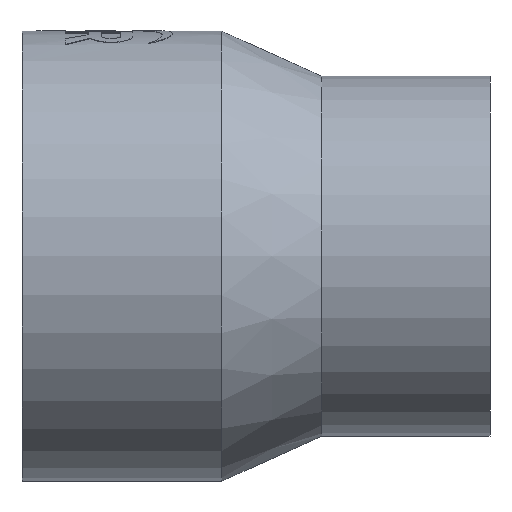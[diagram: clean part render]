
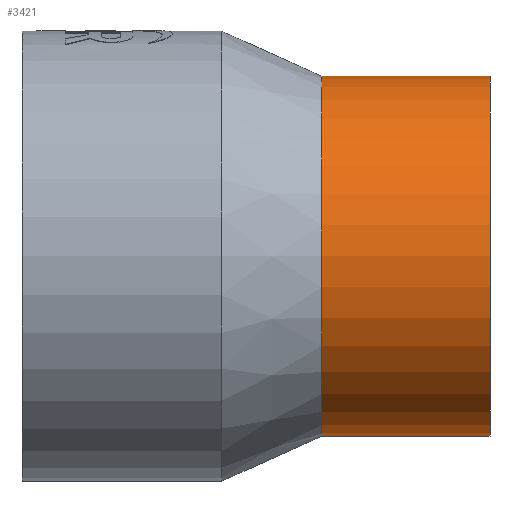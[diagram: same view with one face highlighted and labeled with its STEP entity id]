
A CAD part, front view. The second image highlights one B-rep face of the part: STEP entity #3421.
In plain terms, the highlighted cylindrical face has radius 200 mm (diameter 400 mm), a partial arc.
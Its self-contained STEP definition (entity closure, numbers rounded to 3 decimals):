
#167 = CARTESIAN_POINT ( 'NONE',  ( 333., 0., 200. ) ) ;
#232 = CARTESIAN_POINT ( 'NONE',  ( 520., 0., 0. ) ) ;
#261 = CYLINDRICAL_SURFACE ( 'NONE', #1511, 200. ) ;
#269 = CARTESIAN_POINT ( 'NONE',  ( 333., 0., 0. ) ) ;
#321 = CIRCLE ( 'NONE', #3588, 200. ) ;
#405 = FACE_OUTER_BOUND ( 'NONE', #3077, .T. ) ;
#500 = CARTESIAN_POINT ( 'NONE',  ( 520., 0., -200. ) ) ;
#520 = AXIS2_PLACEMENT_3D ( 'NONE', #232, #1070, #2210 ) ;
#563 = DIRECTION ( 'NONE',  ( 0., 0., 1. ) ) ;
#578 = DIRECTION ( 'NONE',  ( -1., 0., 0. ) ) ;
#631 = CARTESIAN_POINT ( 'NONE',  ( -0.3, 0., -200. ) ) ;
#653 = DIRECTION ( 'NONE',  ( -1., 0., 0. ) ) ;
#1011 = VERTEX_POINT ( 'NONE', #1814 ) ;
#1021 = ORIENTED_EDGE ( 'NONE', *, *, #3704, .F. ) ;
#1059 = LINE ( 'NONE', #631, #1934 ) ;
#1070 = DIRECTION ( 'NONE',  ( -1., 0., 0. ) ) ;
#1075 = ORIENTED_EDGE ( 'NONE', *, *, #2158, .T. ) ;
#1157 = ORIENTED_EDGE ( 'NONE', *, *, #3751, .T. ) ;
#1191 = VERTEX_POINT ( 'NONE', #500 ) ;
#1206 = ORIENTED_EDGE ( 'NONE', *, *, #2150, .F. ) ;
#1511 = AXIS2_PLACEMENT_3D ( 'NONE', #1687, #1840, #1555 ) ;
#1555 = DIRECTION ( 'NONE',  ( 0., 0., 1. ) ) ;
#1687 = CARTESIAN_POINT ( 'NONE',  ( -0.3, 0., 0. ) ) ;
#1814 = CARTESIAN_POINT ( 'NONE',  ( 520., 0., 200. ) ) ;
#1840 = DIRECTION ( 'NONE',  ( -1., 0., 0. ) ) ;
#1934 = VECTOR ( 'NONE', #653, 1000. ) ;
#2150 = EDGE_CURVE ( 'NONE', #3270, #3257, #321, .T. ) ;
#2158 = EDGE_CURVE ( 'NONE', #1191, #1011, #2986, .T. ) ;
#2210 = DIRECTION ( 'NONE',  ( 0., 0., 1. ) ) ;
#2255 = LINE ( 'NONE', #2771, #3120 ) ;
#2771 = CARTESIAN_POINT ( 'NONE',  ( -0.3, 0., 200. ) ) ;
#2844 = CARTESIAN_POINT ( 'NONE',  ( 333., 0., -200. ) ) ;
#2889 = DIRECTION ( 'NONE',  ( -1., 0., 0. ) ) ;
#2986 = CIRCLE ( 'NONE', #520, 200. ) ;
#3077 = EDGE_LOOP ( 'NONE', ( #1021, #1075, #1157, #1206 ) ) ;
#3120 = VECTOR ( 'NONE', #2889, 1000. ) ;
#3257 = VERTEX_POINT ( 'NONE', #167 ) ;
#3270 = VERTEX_POINT ( 'NONE', #2844 ) ;
#3421 = ADVANCED_FACE ( 'NONE', ( #405 ), #261, .T. ) ;
#3588 = AXIS2_PLACEMENT_3D ( 'NONE', #269, #578, #563 ) ;
#3704 = EDGE_CURVE ( 'NONE', #1191, #3270, #1059, .T. ) ;
#3751 = EDGE_CURVE ( 'NONE', #1011, #3257, #2255, .T. ) ;
